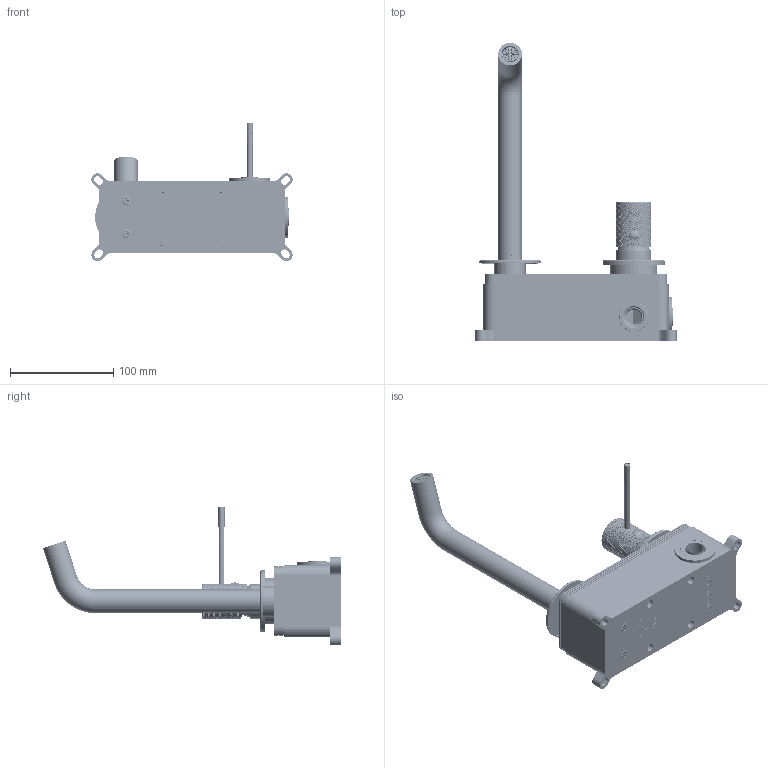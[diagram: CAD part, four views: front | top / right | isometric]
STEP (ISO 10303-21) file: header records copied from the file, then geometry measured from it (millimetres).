
FILE_DESCRIPTION((''),'2;1');
FILE_NAME('1109200_ASM_ASM','2022-11-30T',('Administrator'),(''),'PRO/ENGINEER BY PARAMETRIC TECHNOLOGY CORPORATION, 2015240','PRO/ENGINEER BY PARAMETRIC TECHNOLOGY CORPORATION, 2015240','');
FILE_SCHEMA(('CONFIG_CONTROL_DESIGN'));
Products named in the file (40): 511091-0122SX_2; 60718141_31; 511091-0400_2; 511091-0522SX_2; 61504642_2; 61819300_19; 61819100_1; 61516742_3; 61319322_1; 61818900_2; 61504742_2; 511092-07-100_1; 511092-07-200_1; 511092-0700_ASM_1_ASM; 7609313-0100Q_10; 7609313-0200_2; 61109212_2; 7609270-0200_2; 60931300Q_ASM_4_ASM; 61627242_1; 7653058-0241_1; 61100112_1; MANIFOLD_SOLID_BREP_363954; MANIFOLD_SOLID_BREP_364166; MANIFOLD_SOLID_BREP_364378; MANIFOLD_SOLID_BREP_364590; MANIFOLD_SOLID_BREP_364802; 511091-03-141_1_ASM; 511091-03-241_1; 511091-03-541_1; 511091-03-241_ASM_1_ASM; 61620742R_4; 61620742B_3; 61103812_2; 61106312_1; 81106000_1; 511091-0341_ASM_2_ASM; 61800800_1; 1109200_ASM_42_ASM; 1109200_ASM_ASM
Assembly tree (46 placements, depth 5):
  1109200_ASM_ASM
    1109200_ASM_42_ASM
      511091-0122SX_2
      60718141_31
      511091-0400_2
      511091-0522SX_2
      61504642_2
      61819300_19
      61819100_1
      61516742_3
      61319322_1
      61818900_2
      61504742_2  x3
      511092-0700_ASM_1_ASM
        511092-07-100_1
        511092-07-200_1
      60931300Q_ASM_4_ASM
        7609313-0100Q_10
        7609313-0200_2
        61109212_2
        7609270-0200_2
      61627242_1
      7653058-0241_1
      61100112_1  x2
      511091-0341_ASM_2_ASM
        511091-03-141_1_ASM
          MANIFOLD_SOLID_BREP_363954
          MANIFOLD_SOLID_BREP_364166
          MANIFOLD_SOLID_BREP_364378
          MANIFOLD_SOLID_BREP_364590
          MANIFOLD_SOLID_BREP_364802
        511091-03-241_ASM_1_ASM
          511091-03-241_1
          511091-03-541_1
        61620742R_4
        61620742B_3
        61103812_2  x4
        61106312_1  x2
        81106000_1
      61800800_1
Bounding box: 195.33 x 289.24 x 134.16 mm (x, y, z)
Volume: 333014.5 mm3; surface area: 315002.2 mm2
Topology: 40 solids, 69 shells, 8416 faces, 19359 edges, 11270 vertices
Faces by surface type: bspline 4523, cylinder 2354, plane 1179, torus 178, cone 152, sphere 18, extrusion 12
Entity records: 329382 total; most frequent: CARTESIAN_POINT 184405, ORIENTED_EDGE 36802, EDGE_CURVE 18456, DIRECTION 16701, B_SPLINE_CURVE_WITH_KNOTS 12235, VERTEX_POINT 10690, EDGE_LOOP 8479, FACE_OUTER_BOUND 8106
